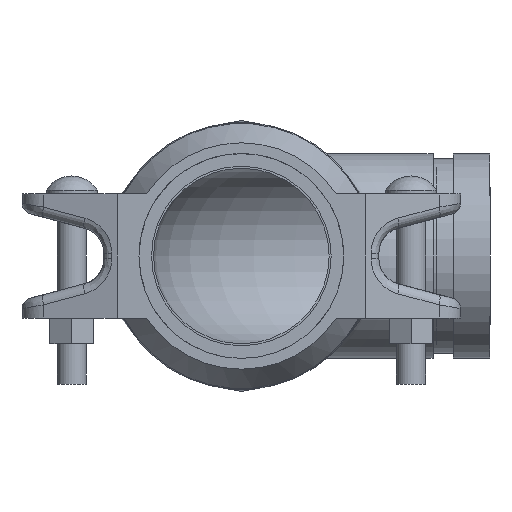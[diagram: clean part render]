
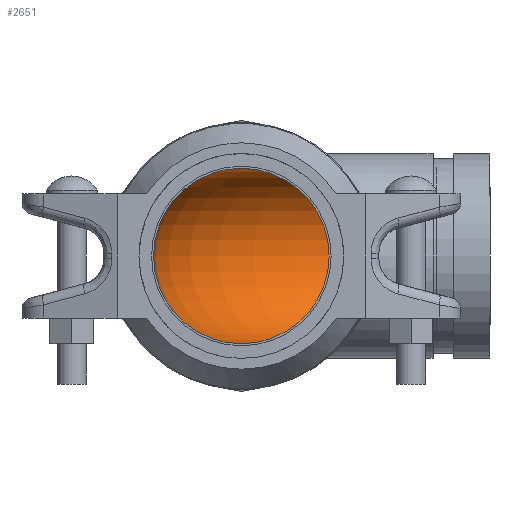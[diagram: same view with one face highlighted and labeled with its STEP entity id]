
A CAD part, left-side view. The second image highlights one B-rep face of the part: STEP entity #2651.
In plain terms, the highlighted toroidal (fillet/blend) face has major radius 84.938 mm and minor radius 38.964 mm.
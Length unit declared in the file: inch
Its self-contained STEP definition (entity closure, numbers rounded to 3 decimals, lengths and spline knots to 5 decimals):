
#104=TOROIDAL_SURFACE('',#2912,3.344,1.534);
#570=FACE_OUTER_BOUND('',#723,.T.);
#723=EDGE_LOOP('',(#1695,#1696,#1697,#1698,#1699,#1700));
#897=CIRCLE('',#2909,1.534);
#898=CIRCLE('',#2910,1.534);
#900=CIRCLE('',#2913,1.534);
#901=CIRCLE('',#2914,1.81);
#902=CIRCLE('',#2915,1.534);
#1039=VERTEX_POINT('',#4182);
#1040=VERTEX_POINT('',#4183);
#1042=VERTEX_POINT('',#4190);
#1043=VERTEX_POINT('',#4191);
#1297=EDGE_CURVE('',#1039,#1040,#897,.T.);
#1298=EDGE_CURVE('',#1040,#1039,#898,.T.);
#1301=EDGE_CURVE('',#1042,#1043,#900,.T.);
#1302=EDGE_CURVE('',#1043,#1040,#901,.T.);
#1303=EDGE_CURVE('',#1043,#1042,#902,.T.);
#1695=ORIENTED_EDGE('',*,*,#1301,.T.);
#1696=ORIENTED_EDGE('',*,*,#1302,.T.);
#1697=ORIENTED_EDGE('',*,*,#1297,.F.);
#1698=ORIENTED_EDGE('',*,*,#1298,.F.);
#1699=ORIENTED_EDGE('',*,*,#1302,.F.);
#1700=ORIENTED_EDGE('',*,*,#1303,.T.);
#2651=ADVANCED_FACE('',(#570),#104,.F.);
#2909=AXIS2_PLACEMENT_3D('',#4184,#3246,#3247);
#2910=AXIS2_PLACEMENT_3D('',#4185,#3248,#3249);
#2912=AXIS2_PLACEMENT_3D('',#4189,#3253,#3254);
#2913=AXIS2_PLACEMENT_3D('',#4192,#3255,#3256);
#2914=AXIS2_PLACEMENT_3D('',#4193,#3257,#3258);
#2915=AXIS2_PLACEMENT_3D('',#4194,#3259,#3260);
#3246=DIRECTION('center_axis',(0.,1.,0.));
#3247=DIRECTION('ref_axis',(1.,0.,0.));
#3248=DIRECTION('center_axis',(0.,1.,0.));
#3249=DIRECTION('ref_axis',(1.,0.,0.));
#3253=DIRECTION('center_axis',(0.,0.,1.));
#3254=DIRECTION('ref_axis',(1.,0.,0.));
#3255=DIRECTION('center_axis',(1.,0.,0.));
#3256=DIRECTION('ref_axis',(0.,-1.,0.));
#3257=DIRECTION('center_axis',(0.,0.,1.));
#3258=DIRECTION('ref_axis',(1.,0.,0.));
#3259=DIRECTION('center_axis',(1.,0.,0.));
#3260=DIRECTION('ref_axis',(0.,-1.,0.));
#4182=CARTESIAN_POINT('',(-1.534,-3.344,0.));
#4183=CARTESIAN_POINT('',(1.534,-3.344,0.));
#4184=CARTESIAN_POINT('Origin',(0.,-3.344,
0.));
#4185=CARTESIAN_POINT('Origin',(0.,-3.344,
0.));
#4189=CARTESIAN_POINT('Origin',(3.344,-3.344,0.));
#4190=CARTESIAN_POINT('',(3.344,1.534,0.));
#4191=CARTESIAN_POINT('',(3.344,-1.534,0.));
#4192=CARTESIAN_POINT('Origin',(3.344,0.,0.));
#4193=CARTESIAN_POINT('Origin',(3.344,-3.344,0.));
#4194=CARTESIAN_POINT('Origin',(3.344,0.,0.));
